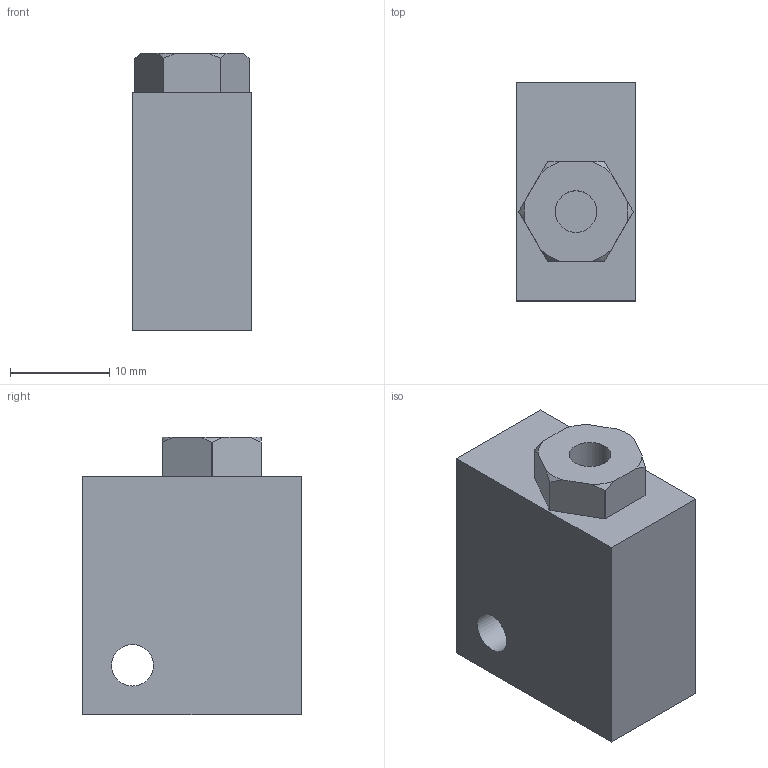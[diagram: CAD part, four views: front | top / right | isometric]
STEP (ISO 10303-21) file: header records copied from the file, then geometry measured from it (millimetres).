
FILE_DESCRIPTION(/* description */ ('SCARICO RAPIDO M5'),/* implementation_level */ '2;1');
FILE_NAME(/* name */ 'I:\Area Tecnica\Disegni\VARIE-3D\Componenti\600\6_02_XX\6_02_05.stp',/* time_stamp */ '2017-01-20T13:58:30+01:00',/* author */ ('maniean1'),/* organization */ ('Pneumax S.p.A.'),/* preprocessor_version */ 'ST-DEVELOPER v15.2',/* originating_system */ 'Autodesk Inventor 2014',/* authorisation */ '');
FILE_SCHEMA (('AUTOMOTIVE_DESIGN { 1 0 10303 214 3 1 1 }'));
Length unit declared in the file: millimetre
Products named in the file (1): 6_02_05
Bounding box: 12 x 22 x 28 mm (x, y, z)
Volume: 6224.7 mm3; surface area: 2703.6 mm2
Topology: 1 solids, 1 shells, 32 faces, 78 edges, 52 vertices
Faces by surface type: plane 16, cylinder 10, cone 6
Full cylindrical faces by diameter (mm): 4.2 x4
Entity records: 997 total; most frequent: CARTESIAN_POINT 183, DIRECTION 154, ORIENTED_EDGE 148, EDGE_CURVE 74, AXIS2_PLACEMENT_3D 59, VERTEX_POINT 52, EDGE_LOOP 42, LINE 36
